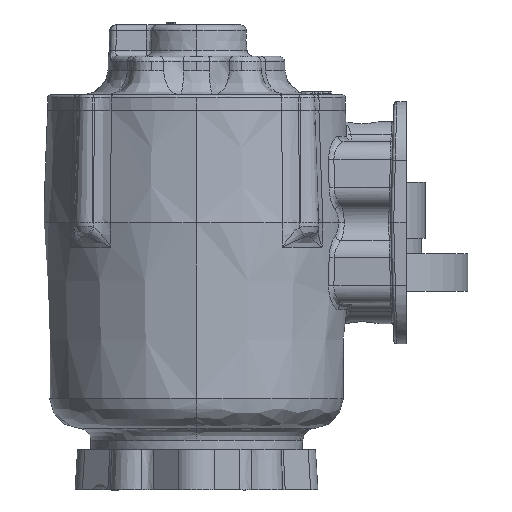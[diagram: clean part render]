
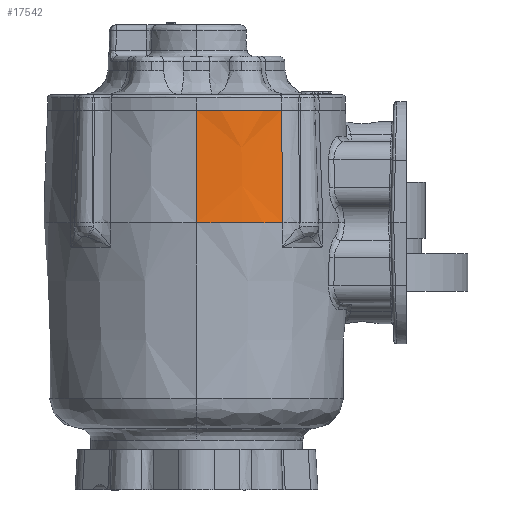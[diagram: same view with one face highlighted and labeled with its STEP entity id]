
A CAD part, left-side view. The second image highlights one B-rep face of the part: STEP entity #17542.
In plain terms, the highlighted conical face has half-angle 2 degrees and reference radius 78.232 mm.
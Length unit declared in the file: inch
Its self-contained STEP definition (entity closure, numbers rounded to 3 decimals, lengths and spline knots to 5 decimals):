
#1993 = EDGE_LOOP ( 'NONE', ( #57356, #57358, #57360, #57362 ) ) ;
#4568 = VECTOR ( 'NONE', #99037, 39.37008 ) ;
#4766 = AXIS2_PLACEMENT_3D ( 'NONE', #55908, #55909, #55910 ) ;
#4769 = CIRCLE ( 'NONE', #4766, 3.08 ) ;
#4940 = AXIS2_PLACEMENT_3D ( 'NONE', #37522, #37518, #37093 ) ;
#4941 = CONICAL_SURFACE ( 'NONE', #4940, 3.08, 0.035 ) ;
#13380 = VERTEX_POINT ( 'NONE', #42522 ) ;
#17542 = ADVANCED_FACE ( 'NONE', ( #37095 ), #4941, .F. ) ;
#17929 = EDGE_CURVE ( 'NONE', #83053, #83054, #4769, .T. ) ;
#22091 = EDGE_CURVE ( 'NONE', #83095, #83054, #99030, .T. ) ;
#23771 = B_SPLINE_CURVE_WITH_KNOTS ( 'NONE', 3,
 ( #70436, #70435, #70459, #70460, #70461, #70462, #70463, #70464, #70465, #70466 ),
 .UNSPECIFIED., .F., .F.,
 ( 4, 2, 2, 2, 4 ),
 ( 0.5, 0.625, 0.75, 0.875, 1. ),
 .UNSPECIFIED. ) ;
#23781 = B_SPLINE_CURVE_WITH_KNOTS ( 'NONE', 3,
 ( #70468, #70467, #70475, #70476, #70477, #70478, #70479, #70480, #70481, #70482, #70483, #70484, #70485, #70486, #70487, #70488 ),
 .UNSPECIFIED., .F., .F.,
 ( 4, 2, 2, 2, 2, 2, 2, 4 ),
 ( 0., 0.05557, 0.24359, 0.3376, 0.48803, 0.7287, 0.9957, 1. ),
 .UNSPECIFIED. ) ;
#37093 = DIRECTION ( 'NONE',  ( -1., 0., 0. ) ) ;
#37095 = FACE_OUTER_BOUND ( 'NONE', #1993, .T. ) ;
#37518 = DIRECTION ( 'NONE',  ( 0., 0., -1. ) ) ;
#37522 = CARTESIAN_POINT ( 'NONE',  ( -0.95267, 1.86514, 0.34734 ) ) ;
#42522 = CARTESIAN_POINT ( 'NONE',  ( -3.41704, 0.15272, 2.61184 ) ) ;
#55908 = CARTESIAN_POINT ( 'NONE',  ( -0.95267, 1.86514, 0.34734 ) ) ;
#55909 = DIRECTION ( 'NONE',  ( 0., 0., -1. ) ) ;
#55910 = DIRECTION ( 'NONE',  ( 0., -1., 0. ) ) ;
#57356 = ORIENTED_EDGE ( 'NONE', *, *, #22091, .F. ) ;
#57358 = ORIENTED_EDGE ( 'NONE', *, *, #84525, .T. ) ;
#57360 = ORIENTED_EDGE ( 'NONE', *, *, #84527, .F. ) ;
#57362 = ORIENTED_EDGE ( 'NONE', *, *, #17929, .T. ) ;
#70435 = CARTESIAN_POINT ( 'NONE',  ( -3.95359, 1.71328, 2.61184 ) ) ;
#70436 = CARTESIAN_POINT ( 'NONE',  ( -3.95359, 1.86514, 2.61184 ) ) ;
#70459 = CARTESIAN_POINT ( 'NONE',  ( -3.94204, 1.56141, 2.61184 ) ) ;
#70460 = CARTESIAN_POINT ( 'NONE',  ( -3.8961, 1.26118, 2.61184 ) ) ;
#70461 = CARTESIAN_POINT ( 'NONE',  ( -3.86172, 1.11281, 2.61184 ) ) ;
#70462 = CARTESIAN_POINT ( 'NONE',  ( -3.7709, 0.82297, 2.61184 ) ) ;
#70463 = CARTESIAN_POINT ( 'NONE',  ( -3.71447, 0.6815, 2.61184 ) ) ;
#70464 = CARTESIAN_POINT ( 'NONE',  ( -3.58087, 0.40873, 2.61184 ) ) ;
#70465 = CARTESIAN_POINT ( 'NONE',  ( -3.5037, 0.27743, 2.61184 ) ) ;
#70466 = CARTESIAN_POINT ( 'NONE',  ( -3.41704, 0.15272, 2.61184 ) ) ;
#70467 = CARTESIAN_POINT ( 'NONE',  ( -3.49514, 0.1292, 0.38781 ) ) ;
#70468 = CARTESIAN_POINT ( 'NONE',  ( -3.49656, 0.12877, 0.34734 ) ) ;
#70475 = CARTESIAN_POINT ( 'NONE',  ( -3.49369, 0.12965, 0.42926 ) ) ;
#70476 = CARTESIAN_POINT ( 'NONE',  ( -3.48717, 0.13165, 0.61594 ) ) ;
#70477 = CARTESIAN_POINT ( 'NONE',  ( -3.48095, 0.13354, 0.79356 ) ) ;
#70478 = CARTESIAN_POINT ( 'NONE',  ( -3.47083, 0.13661, 1.08218 ) ) ;
#70479 = CARTESIAN_POINT ( 'NONE',  ( -3.46694, 0.13779, 1.19319 ) ) ;
#70480 = CARTESIAN_POINT ( 'NONE',  ( -3.46061, 0.13971, 1.37358 ) ) ;
#70481 = CARTESIAN_POINT ( 'NONE',  ( -3.45817, 0.14044, 1.44296 ) ) ;
#70482 = CARTESIAN_POINT ( 'NONE',  ( -3.45086, 0.14264, 1.65111 ) ) ;
#70483 = CARTESIAN_POINT ( 'NONE',  ( -3.44599, 0.1441, 1.78987 ) ) ;
#70484 = CARTESIAN_POINT ( 'NONE',  ( -3.4333, 0.1479, 2.15065 ) ) ;
#70485 = CARTESIAN_POINT ( 'NONE',  ( -3.42547, 0.15023, 2.37267 ) ) ;
#70486 = CARTESIAN_POINT ( 'NONE',  ( -3.4173, 0.15264, 2.60448 ) ) ;
#70487 = CARTESIAN_POINT ( 'NONE',  ( -3.41717, 0.15268, 2.60816 ) ) ;
#70488 = CARTESIAN_POINT ( 'NONE',  ( -3.41704, 0.15272, 2.61184 ) ) ;
#78590 = CARTESIAN_POINT ( 'NONE',  ( -3.49656, 0.12877, 0.34734 ) ) ;
#78594 = CARTESIAN_POINT ( 'NONE',  ( -4.03267, 1.86514, 0.34734 ) ) ;
#78743 = CARTESIAN_POINT ( 'NONE',  ( -3.95359, 1.86514, 2.61184 ) ) ;
#83053 = VERTEX_POINT ( 'NONE', #78590 ) ;
#83054 = VERTEX_POINT ( 'NONE', #78594 ) ;
#83095 = VERTEX_POINT ( 'NONE', #78743 ) ;
#84525 = EDGE_CURVE ( 'NONE', #83095, #13380, #23771, .T. ) ;
#84527 = EDGE_CURVE ( 'NONE', #83053, #13380, #23781, .T. ) ;
#99030 = LINE ( 'NONE', #99036, #4568 ) ;
#99036 = CARTESIAN_POINT ( 'NONE',  ( -4.03267, 1.86514, 0.34734 ) ) ;
#99037 = DIRECTION ( 'NONE',  ( -0.035, 0., -0.999 ) ) ;
